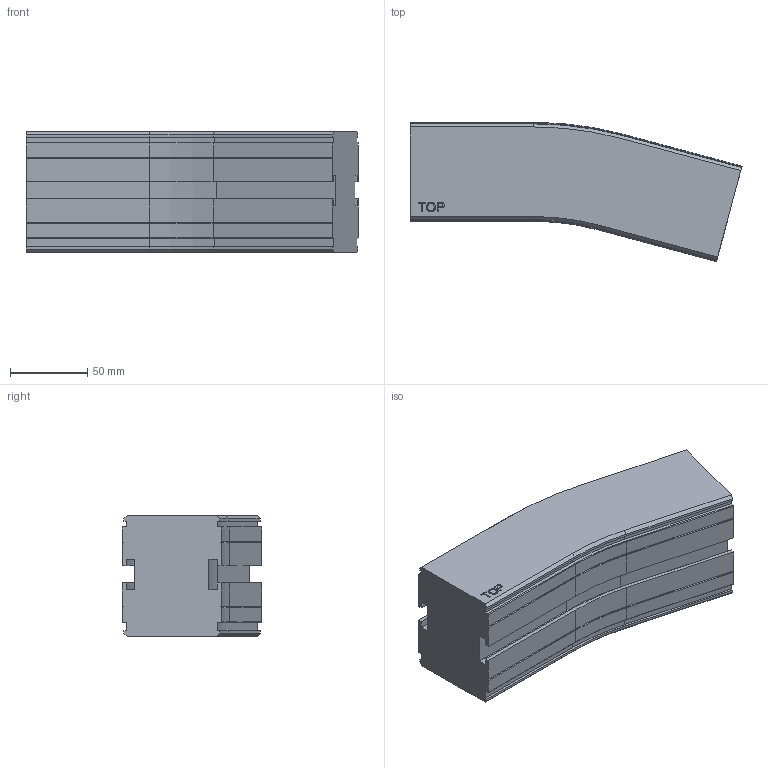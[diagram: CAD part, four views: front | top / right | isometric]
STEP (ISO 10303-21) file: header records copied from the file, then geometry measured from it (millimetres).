
FILE_DESCRIPTION((''),'2;1');
FILE_NAME('C:\Vault Klient\Projekt\Koncept konstruktion\Serie 620 Balk\620-5130.stp','2009-11-26T14:45:25',('Mathias'),(''),'Autodesk Inventor 2010','Autodesk Inventor 2010','');
FILE_SCHEMA(('AUTOMOTIVE_DESIGN { 1 0 10303 214 1 1 1 1 }'));
Length unit declared in the file: millimetre
Products named in the file (1): 620-5130
Bounding box: 214.99 x 90.12 x 78 mm (x, y, z)
Volume: 976605.6 mm3; surface area: 85018.3 mm2
Topology: 1 solids, 1 shells, 169 faces, 446 edges, 284 vertices
Faces by surface type: plane 109, cylinder 30, bspline 14, cone 12, torus 4
Entity records: 5295 total; most frequent: CARTESIAN_POINT 1094, ORIENTED_EDGE 892, DIRECTION 802, EDGE_CURVE 446, VECTOR 346, LINE 346, VERTEX_POINT 284, AXIS2_PLACEMENT_3D 228
